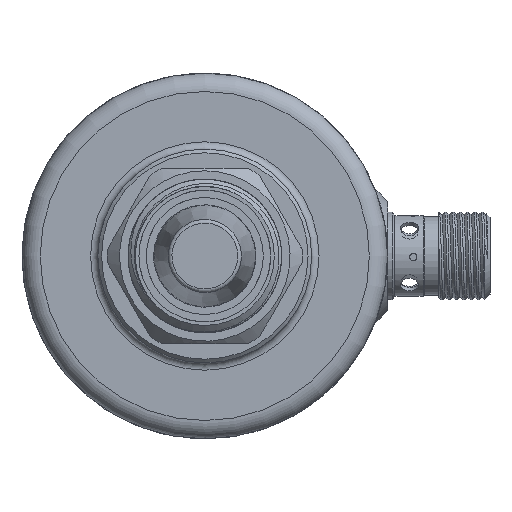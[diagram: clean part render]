
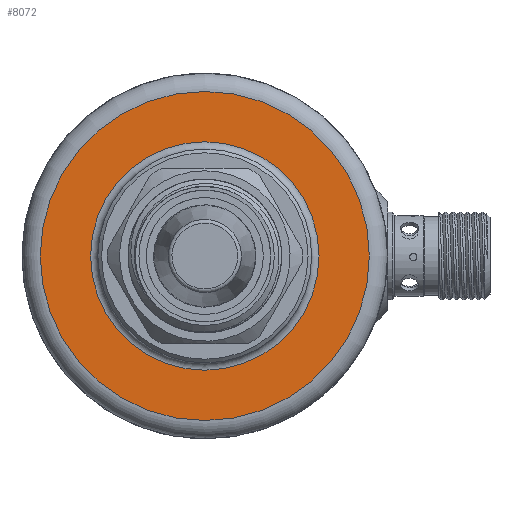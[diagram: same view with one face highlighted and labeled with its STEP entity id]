
A CAD part, front view. The second image highlights one B-rep face of the part: STEP entity #8072.
In plain terms, the highlighted planar face has unit normal (0, -1, 0) as drawn and (-1, 0, 0) by its records, which use the part's own axes.
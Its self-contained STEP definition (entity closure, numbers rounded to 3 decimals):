
#395 = EDGE_LOOP ( 'NONE', ( #8561 ) ) ;
#546 = VERTEX_POINT ( 'NONE', #11704 ) ;
#572 = EDGE_CURVE ( 'NONE', #4928, #4928, #1232, .T. ) ;
#709 = DIRECTION ( 'NONE',  ( 0., 0., -1. ) ) ;
#1232 = CIRCLE ( 'NONE', #12030, 22.5 ) ;
#1825 = CARTESIAN_POINT ( 'NONE',  ( 41., 0., -22.775 ) ) ;
#2184 = DIRECTION ( 'NONE',  ( 0., 0., -1. ) ) ;
#3940 = ORIENTED_EDGE ( 'NONE', *, *, #572, .T. ) ;
#4028 = FACE_BOUND ( 'NONE', #395, .T. ) ;
#4364 = AXIS2_PLACEMENT_3D ( 'NONE', #5617, #12212, #6811 ) ;
#4864 = DIRECTION ( 'NONE',  ( 1., 0., 0. ) ) ;
#4928 = VERTEX_POINT ( 'NONE', #1825 ) ;
#4932 = PLANE ( 'NONE',  #7947 ) ;
#5617 = CARTESIAN_POINT ( 'NONE',  ( 41., 0., -0.275 ) ) ;
#6059 = FACE_OUTER_BOUND ( 'NONE', #6153, .T. ) ;
#6153 = EDGE_LOOP ( 'NONE', ( #3940 ) ) ;
#6811 = DIRECTION ( 'NONE',  ( 0., 0., -1. ) ) ;
#7524 = CARTESIAN_POINT ( 'NONE',  ( 41., 0., -0.275 ) ) ;
#7947 = AXIS2_PLACEMENT_3D ( 'NONE', #9223, #4864, #709 ) ;
#8072 = ADVANCED_FACE ( 'NONE', ( #4028, #6059 ), #4932, .F. ) ;
#8561 = ORIENTED_EDGE ( 'NONE', *, *, #9956, .T. ) ;
#9223 = CARTESIAN_POINT ( 'NONE',  ( 41., 0., -0.275 ) ) ;
#9497 = DIRECTION ( 'NONE',  ( -1., 0., 0. ) ) ;
#9956 = EDGE_CURVE ( 'NONE', #546, #546, #11999, .T. ) ;
#11704 = CARTESIAN_POINT ( 'NONE',  ( 41., 0., -15.895 ) ) ;
#11999 = CIRCLE ( 'NONE', #4364, 15.62 ) ;
#12030 = AXIS2_PLACEMENT_3D ( 'NONE', #7524, #9497, #2184 ) ;
#12212 = DIRECTION ( 'NONE',  ( 1., 0., 0. ) ) ;
